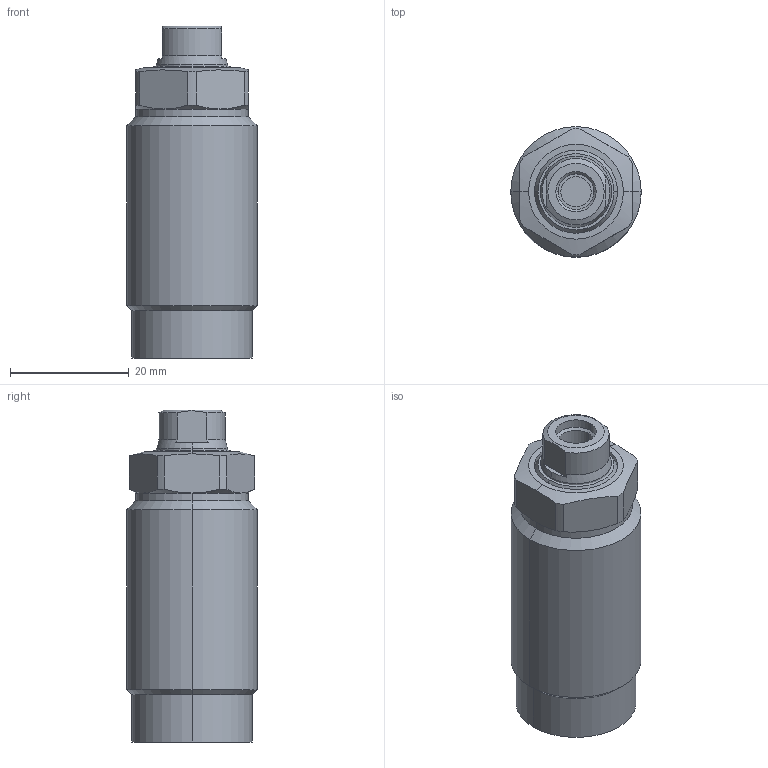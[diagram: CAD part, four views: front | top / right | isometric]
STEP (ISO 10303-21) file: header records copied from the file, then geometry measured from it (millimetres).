
FILE_DESCRIPTION((' '),'2;1');
FILE_NAME( 'TGP22-AL.x_t.stp', '2025-02-10T16:03:51', (' '), ('--- Datakit www.datakit.com---'), ' Datakit CrossCadWare V2024.1 Dec 21 2023', 'Mastercam 2025', ' ');
FILE_SCHEMA(('AUTOMOTIVE_DESIGN { 1 0 10303 214 1 1 1 1 }'));
Length unit declared in the file: millimetre
Products named in the file (1): TGP22-AL
Bounding box: 22 x 22 x 56 mm (x, y, z)
Volume: 19451.7 mm3; surface area: 5471 mm2
Topology: 2 solids, 2 shells, 82 faces, 189 edges, 118 vertices
Faces by surface type: cylinder 34, plane 22, cone 22, torus 4
Entity records: 2442 total; most frequent: CARTESIAN_POINT 536, DIRECTION 422, ORIENTED_EDGE 374, EDGE_CURVE 187, AXIS2_PLACEMENT_3D 180, VERTEX_POINT 118, CIRCLE 97, EDGE_LOOP 91
